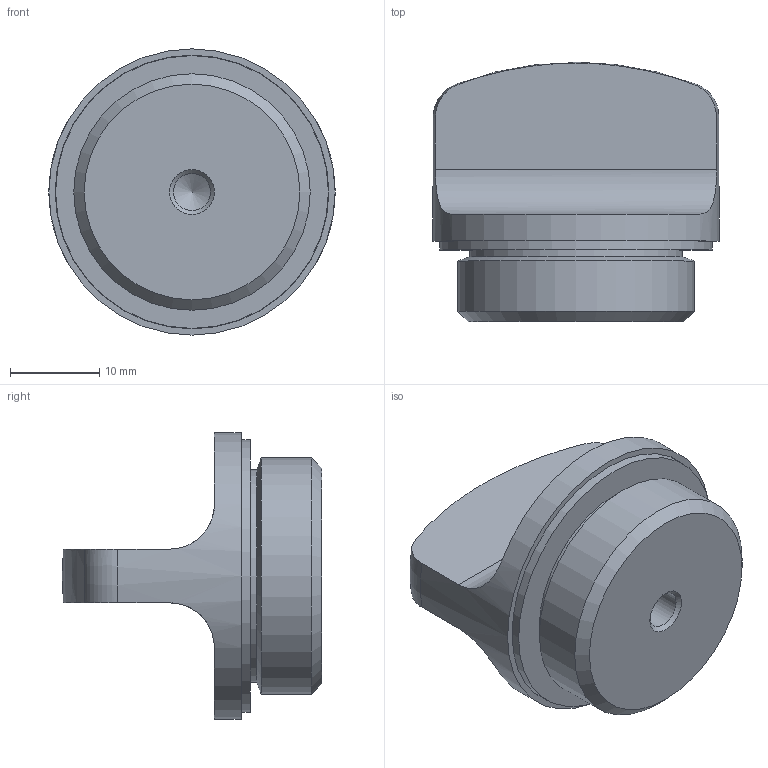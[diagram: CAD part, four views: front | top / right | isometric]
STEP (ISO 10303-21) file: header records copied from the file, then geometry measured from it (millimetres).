
FILE_DESCRIPTION( ( 'STEP AP203' ), '1' );
FILE_NAME( 'C:/Temp/Ganter_Step_05_03_2020/data/3_5/gn441/Threaded plug GN 441-32-G3_4-2-BL.stp', '2020-03-12T13:34:56', ( 'License CC BY-ND 4.0' ), ( 'CADENAS' ), ' ', 'PARTsolutions', ' ' );
FILE_SCHEMA( ( 'CONFIG_CONTROL_DESIGN' ) );
Length unit declared in the file: millimetre
Products named in the file (1): _Threaded plug GN 441-32-G3/4-2-BL
Bounding box: 32 x 29 x 32 mm (x, y, z)
Volume: 10436.4 mm3; surface area: 4630.3 mm2
Topology: 1 solids, 1 shells, 33 faces, 74 edges, 48 vertices
Faces by surface type: cylinder 14, plane 11, cone 5, torus 2, sphere 1
Full cylindrical faces by diameter (mm): 2 x1, 4.134 x1, 23.8 x1, 23.95 x1, 26.441 x1, 27.5 x1, 27.6 x1, 30.5 x1, 30.6 x1, 32 x1
Entity records: 1030 total; most frequent: CARTESIAN_POINT 345, DIRECTION 136, ORIENTED_EDGE 102, AXIS2_PLACEMENT_3D 64, EDGE_LOOP 56, EDGE_CURVE 51, FACE_OUTER_BOUND 43, VERTEX_POINT 43
